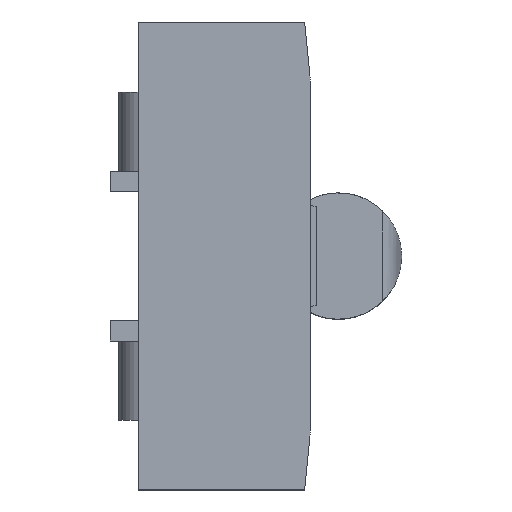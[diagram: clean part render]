
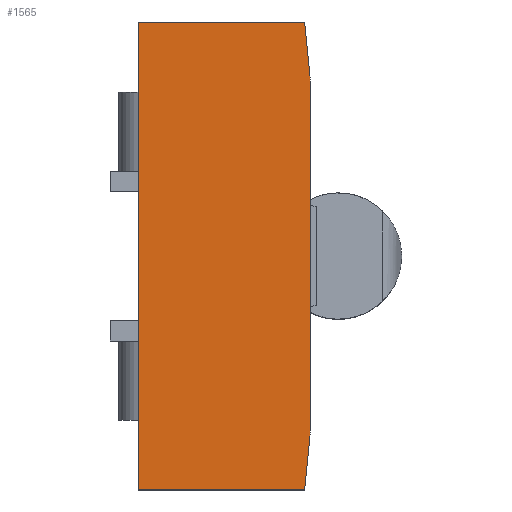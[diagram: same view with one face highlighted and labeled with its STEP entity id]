
A CAD part, top view. The second image highlights one B-rep face of the part: STEP entity #1565.
In plain terms, the highlighted planar face has unit normal (0, 0, 1).
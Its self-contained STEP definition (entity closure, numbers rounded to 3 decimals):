
#26 = VECTOR ( 'NONE', #966, 1000. ) ;
#68 = VECTOR ( 'NONE', #1299, 1000. ) ;
#126 = VECTOR ( 'NONE', #1491, 1000. ) ;
#136 = AXIS2_PLACEMENT_3D ( 'NONE', #1884, #273, #288 ) ;
#152 = LINE ( 'NONE', #1174, #126 ) ;
#155 = VERTEX_POINT ( 'NONE', #1412 ) ;
#156 = DIRECTION ( 'NONE',  ( -0.1, -0.995, 0. ) ) ;
#158 = CARTESIAN_POINT ( 'NONE',  ( -20.825, 41.5, 42.5 ) ) ;
#163 = ORIENTED_EDGE ( 'NONE', *, *, #345, .T. ) ;
#198 = EDGE_CURVE ( 'NONE', #155, #939, #1885, .T. ) ;
#224 = CARTESIAN_POINT ( 'NONE',  ( 9.625, -31.001, 42.5 ) ) ;
#234 = LINE ( 'NONE', #1844, #26 ) ;
#273 = DIRECTION ( 'NONE',  ( 0., 0., -1. ) ) ;
#284 = LINE ( 'NONE', #1439, #803 ) ;
#288 = DIRECTION ( 'NONE',  ( -1., 0., 0. ) ) ;
#331 = ORIENTED_EDGE ( 'NONE', *, *, #1197, .F. ) ;
#332 = LINE ( 'NONE', #158, #68 ) ;
#345 = EDGE_CURVE ( 'NONE', #1195, #1228, #1442, .T. ) ;
#415 = PLANE ( 'NONE',  #136 ) ;
#502 = FACE_OUTER_BOUND ( 'NONE', #1166, .T. ) ;
#518 = CARTESIAN_POINT ( 'NONE',  ( 9.575, -31.996, 42.5 ) ) ;
#524 = ORIENTED_EDGE ( 'NONE', *, *, #1287, .F. ) ;
#592 = VERTEX_POINT ( 'NONE', #1247 ) ;
#632 = CARTESIAN_POINT ( 'NONE',  ( 9.575, 31.996, 42.5 ) ) ;
#721 = CARTESIAN_POINT ( 'NONE',  ( -0.375, 31.001, 42.5 ) ) ;
#753 = ORIENTED_EDGE ( 'NONE', *, *, #944, .F. ) ;
#761 = CARTESIAN_POINT ( 'NONE',  ( -0.375, -31.001, 42.5 ) ) ;
#770 = ORIENTED_EDGE ( 'NONE', *, *, #1503, .F. ) ;
#803 = VECTOR ( 'NONE', #156, 1000. ) ;
#807 = DIRECTION ( 'NONE',  ( 0., -1., 0. ) ) ;
#825 = VECTOR ( 'NONE', #807, 1000. ) ;
#862 = ORIENTED_EDGE ( 'NONE', *, *, #198, .F. ) ;
#905 = VERTEX_POINT ( 'NONE', #1183 ) ;
#926 = ORIENTED_EDGE ( 'NONE', *, *, #1538, .T. ) ;
#939 = VERTEX_POINT ( 'NONE', #1802 ) ;
#944 = EDGE_CURVE ( 'NONE', #592, #1750, #152, .T. ) ;
#966 = DIRECTION ( 'NONE',  ( 0., 1., 0. ) ) ;
#972 = ORIENTED_EDGE ( 'NONE', *, *, #1610, .F. ) ;
#1017 = DIRECTION ( 'NONE',  ( 0., 0., 1. ) ) ;
#1141 = DIRECTION ( 'NONE',  ( -1., 0., 0. ) ) ;
#1166 = EDGE_LOOP ( 'NONE', ( #331, #926, #753, #972, #524, #862, #770, #163 ) ) ;
#1174 = CARTESIAN_POINT ( 'NONE',  ( 9.625, 31.5, 42.5 ) ) ;
#1183 = CARTESIAN_POINT ( 'NONE',  ( 9.625, 31.001, 42.5 ) ) ;
#1185 = DIRECTION ( 'NONE',  ( -1., 0., 0. ) ) ;
#1195 = VERTEX_POINT ( 'NONE', #518 ) ;
#1197 = EDGE_CURVE ( 'NONE', #905, #1228, #1524, .T. ) ;
#1228 = VERTEX_POINT ( 'NONE', #224 ) ;
#1247 = CARTESIAN_POINT ( 'NONE',  ( 8.625, 41.5, 42.5 ) ) ;
#1287 = EDGE_CURVE ( 'NONE', #939, #1459, #234, .T. ) ;
#1299 = DIRECTION ( 'NONE',  ( 1., 0., 0. ) ) ;
#1304 = CARTESIAN_POINT ( 'NONE',  ( 9.625, -41.5, 42.5 ) ) ;
#1311 = CIRCLE ( 'NONE', #1660, 10. ) ;
#1367 = CARTESIAN_POINT ( 'NONE',  ( 9.625, 41.5, 42.5 ) ) ;
#1412 = CARTESIAN_POINT ( 'NONE',  ( 8.625, -41.5, 42.5 ) ) ;
#1414 = CARTESIAN_POINT ( 'NONE',  ( -20.825, 41.5, 42.5 ) ) ;
#1439 = CARTESIAN_POINT ( 'NONE',  ( 8.625, -41.5, 42.5 ) ) ;
#1442 = CIRCLE ( 'NONE', #1474, 10. ) ;
#1459 = VERTEX_POINT ( 'NONE', #1414 ) ;
#1474 = AXIS2_PLACEMENT_3D ( 'NONE', #761, #1787, #1185 ) ;
#1491 = DIRECTION ( 'NONE',  ( 0.1, -0.995, 0. ) ) ;
#1503 = EDGE_CURVE ( 'NONE', #1195, #155, #284, .T. ) ;
#1524 = LINE ( 'NONE', #1367, #825 ) ;
#1538 = EDGE_CURVE ( 'NONE', #905, #1750, #1311, .T. ) ;
#1565 = ADVANCED_FACE ( 'NONE', ( #502 ), #415, .F. ) ;
#1610 = EDGE_CURVE ( 'NONE', #1459, #592, #332, .T. ) ;
#1654 = VECTOR ( 'NONE', #1141, 1000. ) ;
#1660 = AXIS2_PLACEMENT_3D ( 'NONE', #721, #1017, #1738 ) ;
#1738 = DIRECTION ( 'NONE',  ( -1., 0., 0. ) ) ;
#1750 = VERTEX_POINT ( 'NONE', #632 ) ;
#1787 = DIRECTION ( 'NONE',  ( 0., 0., 1. ) ) ;
#1802 = CARTESIAN_POINT ( 'NONE',  ( -20.825, -41.5, 42.5 ) ) ;
#1844 = CARTESIAN_POINT ( 'NONE',  ( -20.825, -41.5, 42.5 ) ) ;
#1884 = CARTESIAN_POINT ( 'NONE',  ( -20.825, -41.5, 42.5 ) ) ;
#1885 = LINE ( 'NONE', #1304, #1654 ) ;
